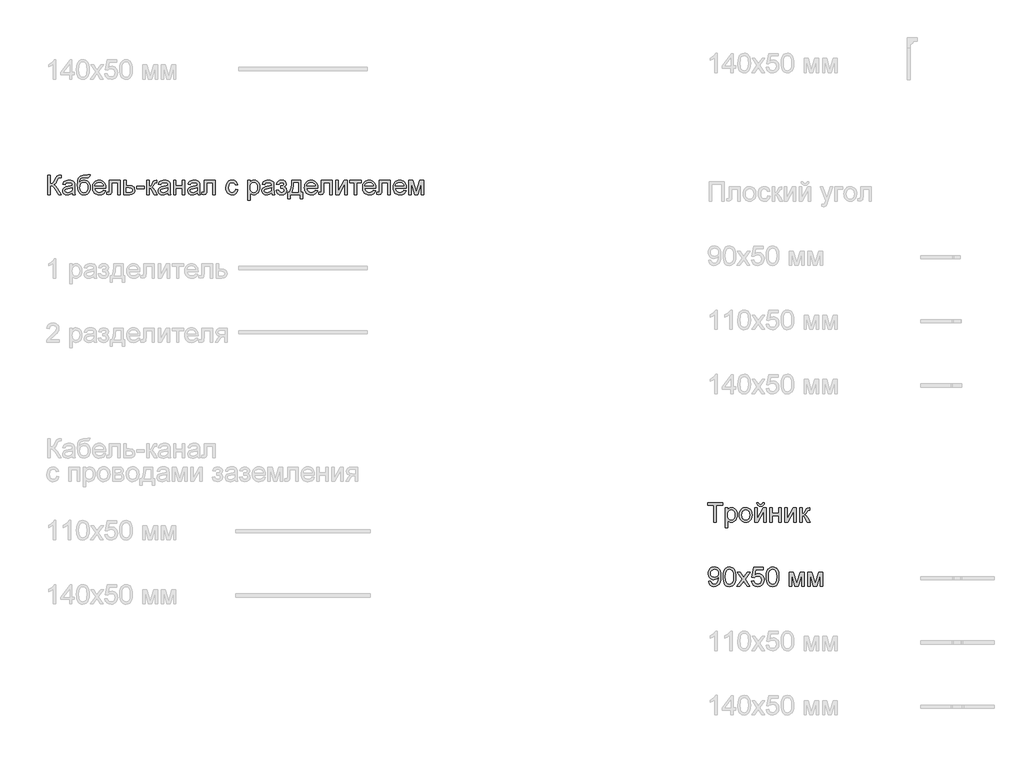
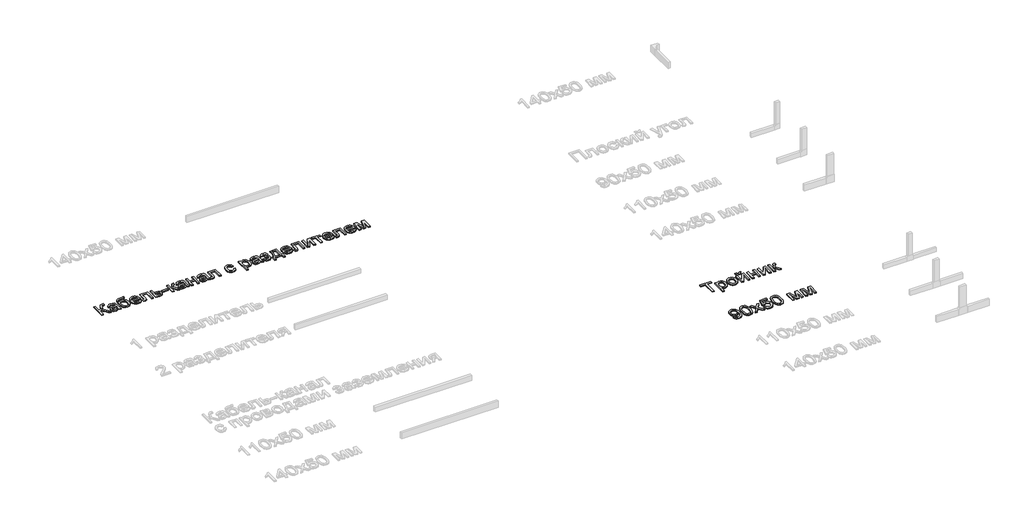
# One storey, part 83 of 168: 3 proxies.
"""IFC4 building model written with IfcOpenShell, lengths in millimetres."""

from ifc_helpers import new_model, si_unit, origin, origin_with_axes, place, context, project, spatial, polyline, outline, extrude, element, save

model = new_model("IFC4")

# Units and contexts
model_context = context("Model", 3, world=origin())
ifc_project = project(units=[si_unit("LENGTHUNIT", "METRE", prefix="MILLI")], contexts=[model_context])

# Site, building, storey
site = spatial("IfcSite", under=ifc_project)
building = spatial("IfcBuilding", under=site)
storey = spatial("IfcBuildingStorey", under=building, Name="Этаж 01", Elevation=0.0)

# Proxies
placement = place(None, origin())
element("IfcBuildingElementProxy", 1, Name="300 мм Arial 2", ObjectType="300 мм Arial 2", at=placement, inside=storey, context=model_context, shape_type="SweptSolid", body=[
    extrude(outline(polyline([(11154.1599642, -22148.4056816), (11154.1599642, -21884.7078674), (11055.2732839, -21884.7078674), (11055.2732839, -21847.0367511), (11290.7177608, -21847.0367511), (11290.7177608, -21884.7078674), (11191.8310805, -21884.7078674), (11191.8310805, -22148.4056816), (11154.1599642, -22148.4056816)])), origin_with_axes(), (0.0, 0.0, 1.0), 20.0),
    extrude(outline(polyline([(11328.3888771, -22233.1656933), (11328.3888771, -21927.0878733), (11366.0599934, -21927.0878733), (11366.0599934, -21964.0232256), (11378.347252, -21945.8038698), (11392.1060387, -21932.7900442), (11408.1456936, -21924.9817488), (11427.2755574, -21922.3789837), (11452.7513856, -21926.0210155), (11475.0266404, -21936.9471107), (11493.1632227, -21954.4950819), (11506.2230336, -21978.0027414), (11514.1141024, -22005.7594379), (11516.7444586, -22036.0545202), (11513.7738115, -22068.271786), (11504.8618702, -22097.0861432), (11490.2937432, -22121.0352611), (11470.354539, -22138.6568087), (11447.1319881, -22149.5001305), (11422.7138207, -22153.1145711), (11405.3957757, -22150.695747), (11389.9355349, -22143.4392746), (11376.7009801, -22132.4855882), (11366.0599934, -22118.975122), (11366.0599934, -22233.1656933), (11328.3888771, -22233.1656933)]), holes=[polyline([(11366.0599934, -22039.512611), (11370.1342865, -22073.2841782), (11382.3571658, -22096.9022022), (11400.3925806, -22110.8081417), (11421.9044803, -22115.4434548), (11443.7658678, -22110.6425948), (11462.2611351, -22096.2400147), (11474.8702905, -22071.7574679), (11479.0733423, -22036.7167078), (11474.9714581, -22003.1290817), (11462.6658053, -21979.1799638), (11444.6579817, -21964.832566), (11423.4495846, -21960.0501), (11402.1584142, -21965.1360686), (11383.4608118, -21980.3939744), (11370.410198, -22005.3455707), (11366.0599934, -22039.512611)])]), origin_with_axes(), (0.0, 0.0, 1.0), 20.0),
    extrude(outline(polyline([(11549.7066854, -22037.7467774), (11551.7438319, -22009.0841715), (11557.8552716, -21984.385494), (11568.0410043, -21963.6507451), (11582.3010302, -21946.8799246), (11596.657625, -21936.160763), (11612.504142, -21928.504219), (11629.840581, -21923.9102925), (11648.6669421, -21922.3789837), (11669.4499756, -21924.2436856), (11688.2418477, -21929.8377912), (11705.0425586, -21939.1613005), (11719.8521082, -21952.2142135), (11731.939331, -21968.5550719), (11740.5730615, -21987.7424172), (11745.7532999, -22009.7762495), (11747.480046, -22034.6565687), (11744.4266254, -22072.7139611), (11735.2663638, -22101.6846682), (11720.2659754, -22123.3805088), (11699.6921748, -22139.6133019), (11675.2556133, -22149.7392538), (11648.6669421, -22153.1145711), (11627.580406, -22151.256767), (11608.6137899, -22145.6833548), (11591.7670937, -22136.3943344), (11577.0403176, -22123.3897059), (11565.0818535, -22106.8901984), (11556.5400934, -22087.1165412), (11551.4150374, -22064.0687342), (11549.7066854, -22037.7467774)]), holes=[polyline([(11587.3778017, -22037.673201), (11591.7372033, -22071.7666649), (11604.8154083, -22096.0560737), (11624.497095, -22110.5966095), (11648.6669421, -22115.4434548), (11672.7264246, -22110.5690184), (11692.3713231, -22095.9457091), (11705.449528, -22071.3344036), (11709.8089297, -22036.4959786), (11705.4219369, -22003.3957961), (11692.2609585, -21979.4374812), (11672.5884688, -21964.8969453), (11648.6669421, -21960.0501), (11624.497095, -21964.8785512), (11604.8154083, -21979.3639048), (11591.7372033, -22003.5981312), (11587.3778017, -22037.673201)])]), origin_with_axes(), (0.0, 0.0, 1.0), 20.0),
    extrude(outline(polyline([(11789.8600518, -21927.0878733), (11827.5311681, -21927.0878733), (11827.5311681, -22095.8721327), (11920.0902781, -21927.0878733), (11968.7978543, -21927.0878733), (11968.7978543, -22148.4056816), (11931.126738, -22148.4056816), (11931.126738, -21980.6514918), (11839.1562392, -22148.4056816), (11789.8600518, -22148.4056816), (11789.8600518, -21927.0878733)])), origin_with_axes(), (0.0, 0.0, 1.0), 20.0),
    extrude(outline(polyline([(11912.2911798, -21847.0367511), (11940.5445171, -21847.0367511), (11934.4652671, -21871.160613), (11922.2607819, -21888.9385104), (11904.4828845, -21899.8921968), (11881.6833978, -21903.5434256), (11856.9433337, -21899.9197879), (11837.7582876, -21889.048875), (11824.6432945, -21871.2985687), (11818.1133891, -21847.0367511), (11846.3667263, -21847.0367511), (11850.3398518, -21859.4435714), (11856.9617278, -21868.2635422), (11866.2691422, -21873.5334518), (11878.2988835, -21875.2900883), (11891.8737291, -21873.5886341), (11901.6961784, -21868.4842714), (11908.3180543, -21859.7194829), (11912.2911798, -21847.0367511)])), origin_with_axes(), (0.0, 0.0, 1.0), 20.0),
    extrude(outline(polyline([(12025.3045288, -21927.0878733), (12062.9756451, -21927.0878733), (12062.9756451, -22011.847885), (12161.8623254, -22011.847885), (12161.8623254, -21927.0878733), (12199.5334417, -21927.0878733), (12199.5334417, -22148.4056816), (12161.8623254, -22148.4056816), (12161.8623254, -22049.5190013), (12062.9756451, -22049.5190013), (12062.9756451, -22148.4056816), (12025.3045288, -22148.4056816), (12025.3045288, -21927.0878733)])), origin_with_axes(), (0.0, 0.0, 1.0), 20.0),
    extrude(outline(polyline([(12256.0401161, -21927.0878733), (12293.7112324, -21927.0878733), (12293.7112324, -22095.8721327), (12386.2703424, -21927.0878733), (12434.9779186, -21927.0878733), (12434.9779186, -22148.4056816), (12397.3068023, -22148.4056816), (12397.3068023, -21980.6514918), (12305.3363035, -22148.4056816), (12256.0401161, -22148.4056816), (12256.0401161, -21927.0878733)])), origin_with_axes(), (0.0, 0.0, 1.0), 20.0),
    extrude(outline(polyline([(12491.484593, -21927.0878733), (12529.1557093, -21927.0878733), (12529.1557093, -22021.265664), (12544.4779944, -22019.5734069), (12554.3924142, -22014.4966353), (12563.1663998, -22001.2528835), (12575.0673823, -21975.0596854), (12592.2474715, -21941.0306009), (12607.4042097, -21929.9573528), (12634.9585712, -21927.0878733), (12642.1690583, -21927.0878733), (12642.1690583, -21964.9797188), (12632.0155152, -21964.7589896), (12613.6214154, -21968.7321151), (12600.6719692, -21993.5273616), (12585.4784428, -22020.345959), (12564.1780753, -22033.4793463), (12576.115846, -22038.7814455), (12587.9432522, -22048.1394438), (12611.2669707, -22079.0231373), (12651.5868373, -22148.4056816), (12608.7653731, -22148.4056816), (12569.2548468, -22080.4946653), (12549.3892191, -22051.7630814), (12540.1001987, -22046.5483542), (12529.1557093, -22044.8101117), (12529.1557093, -22148.4056816), (12491.484593, -22148.4056816), (12491.484593, -21927.0878733)])), origin_with_axes(), (0.0, 0.0, 1.0), 20.0),
])
element("IfcBuildingElementProxy", 2, Name="300 мм Arial 2", ObjectType="300 мм Arial 2", at=placement, inside=storey, context=model_context, shape_type="SweptSolid", body=[
    extrude(outline(polyline([(11069.3999525, -23073.063449), (11107.0710688, -23068.3545594), (11113.5090037, -23089.7377004), (11123.9936406, -23104.2966303), (11138.267462, -23112.6567487), (11156.0729505, -23115.4434548), (11172.0482262, -23113.6500301), (11186.5703679, -23108.2697559), (11198.6368974, -23099.8912435), (11207.2453361, -23089.1031039), (11219.5693829, -23056.3616064), (11225.0140364, -23012.6572253), (11224.7933072, -23005.2995854), (11211.7426935, -23021.2288758), (11194.6637718, -23033.8472283), (11174.7889471, -23042.0693909), (11153.3506238, -23044.8101117), (11135.455464, -23043.1362486), (11118.9996425, -23038.1146594), (11103.9831593, -23029.745344), (11090.4060144, -23018.0283025), (11079.1557231, -23003.5751386), (11071.1198008, -22986.9974562), (11066.2982474, -22968.2952553), (11064.6910629, -22947.4685358), (11066.3764223, -22925.9474391), (11071.4325005, -22906.6336343), (11079.8592975, -22889.5271216), (11091.6568132, -22874.6279008), (11105.9927147, -22862.5567728), (11122.0346689, -22853.9345385), (11139.782676, -22848.761198), (11159.2367357, -22847.0367511), (11187.3337231, -22850.9730885), (11212.9107188, -22862.7821005), (11234.3030568, -22881.8751761), (11249.8460711, -22907.6637039), (11259.3098354, -22943.3114693), (11262.4644236, -22991.9822572), (11259.3190325, -23043.5869041), (11249.8828593, -23083.4745094), (11234.2386775, -23113.447695), (11212.4692604, -23135.3090825), (11185.5127072, -23148.663199), (11154.307117, -23153.1145711), (11122.0990483, -23147.8630556), (11096.4024909, -23132.1085092), (11078.4314555, -23106.8442132), (11069.3999525, -23073.063449)]), holes=[polyline([(11224.7933072, -22946.585619), (11220.7282112, -22921.0546085), (11208.5329231, -22901.40971), (11189.6053944, -22888.8833281), (11165.3435768, -22884.7078674), (11140.1804484, -22889.2052248), (11120.020515, -22902.697297), (11106.7767632, -22923.344674), (11102.3621793, -22949.3079458), (11106.5376399, -22972.585679), (11119.0640218, -22991.0625522), (11138.7273145, -23003.1198846), (11164.3135072, -23007.1389954), (11188.3821868, -23003.1198846), (11207.7603709, -22991.0625522), (11220.5350732, -22971.9050973), (11224.7933072, -22946.585619)])]), origin_with_axes(), (0.0, 0.0, 1.0), 20.0),
    extrude(outline(polyline([(11295.4266503, -23000.1492375), (11298.1949623, -22951.9107109), (11306.4998984, -22913.4394512), (11320.258685, -22884.1468474), (11339.3885487, -22863.4442881), (11364.0274454, -22851.1386354), (11394.3133306, -22847.0367511), (11417.5266845, -22849.4647723), (11438.3120172, -22856.7488358), (11455.6944415, -22868.6038331), (11468.6990701, -22884.7446556), (11478.5215193, -22905.0333477), (11486.3574058, -22929.3319534), (11491.4893597, -22960.1880558), (11493.2000109, -23000.1492375), (11490.4592901, -23048.1118526), (11482.2371275, -23086.4911418), (11468.5611143, -23115.8113368), (11449.4588417, -23136.5966695), (11424.7647628, -23148.9850957), (11394.3133306, -23153.1145711), (11373.5647861, -23151.3211464), (11355.1706863, -23145.9408722), (11339.1310313, -23136.9737486), (11325.4458211, -23124.4197755), (11312.3124339, -23101.7260549), (11302.931443, -23073.4497251), (11297.3028485, -23039.5907859), (11295.4266503, -23000.1492375)]), holes=[polyline([(11333.0977666, -23000.0756611), (11337.5123506, -23059.3322535), (11343.0305805, -23079.6002522), (11350.7561024, -23093.6280525), (11370.4745773, -23109.9896042), (11394.3133306, -23115.4434548), (11418.1520839, -23109.9712101), (11437.8705589, -23093.5544761), (11445.5960808, -23079.5036831), (11451.1143107, -23059.240283), (11455.5288946, -23000.0756611), (11451.2614635, -22942.152641), (11445.9271745, -22921.9513209), (11438.45917, -22907.5901275), (11418.7774833, -22890.4284325), (11393.8718722, -22884.7078674), (11370.2906363, -22889.7478508), (11351.3447136, -22904.8678008), (11343.3616743, -22920.5027856), (11337.6595034, -22941.5824239), (11333.0977666, -23000.0756611)])]), origin_with_axes(), (0.0, 0.0, 1.0), 20.0),
    extrude(outline(polyline([(11512.0355691, -23148.4056816), (11592.5281496, -23037.1581662), (11516.7444586, -22927.0878733), (11562.0675204, -22927.0878733), (11598.6349907, -22980.0628806), (11615.7047153, -23005.0788562), (11630.4935715, -22984.6246173), (11672.1378134, -22927.0878733), (11717.4608752, -22927.0878733), (11637.8512114, -23037.1581662), (11714.5178192, -23148.4056816), (11669.1947574, -23148.4056816), (11623.0623552, -23081.5247348), (11614.6010693, -23069.3110526), (11557.3586309, -23148.4056816), (11512.0355691, -23148.4056816)])), origin_with_axes(), (0.0, 0.0, 1.0), 20.0),
    extrude(outline(polyline([(11738.0622669, -23068.3545594), (11775.7333832, -23063.6456699), (11782.6495647, -23086.2612155), (11794.7160942, -23102.4572204), (11811.8777893, -23112.1968962), (11834.0794677, -23115.4434548), (11861.0820061, -23110.9277033), (11881.3155158, -23097.3804488), (11893.9522624, -23076.3651899), (11898.1645112, -23049.4454249), (11894.2189768, -23024.0983554), (11882.3823736, -23004.7109743), (11862.5627311, -22992.4053215), (11834.6680789, -22988.3034373), (11816.3935407, -22989.9405121), (11801.5954875, -22994.8517368), (11780.4422728, -23011.847885), (11742.7711565, -23007.1389954), (11775.7333832, -22851.7456407), (11921.7089589, -22851.7456407), (11921.7089589, -22889.416757), (11806.1940124, -22889.416757), (11790.080781, -22972.4109351), (11816.991349, -22956.0769745), (11845.1895039, -22950.632321), (11863.5353192, -22952.3199796), (11880.3866138, -22957.3829556), (11895.7433878, -22965.8212488), (11909.6056413, -22977.6348594), (11921.0812603, -22992.1018189), (11929.278131, -23008.5001588), (11934.1962534, -23026.8298792), (11935.8356275, -23047.0909801), (11929.9311215, -23084.7620964), (11922.550489, -23101.5559095), (11912.2176034, -23116.9885592), (11896.5642245, -23132.7936894), (11878.2988835, -23144.0830681), (11857.4215803, -23150.8566954), (11833.9323149, -23153.1145711), (11796.9325832, -23147.3112326), (11781.2539124, -23140.0570595), (11767.4560383, -23129.9012172), (11755.9758208, -23117.3495434), (11747.2501197, -23102.9078758), (11738.0622669, -23068.3545594)])), origin_with_axes(), (0.0, 0.0, 1.0), 20.0),
    extrude(outline(polyline([(11968.7978543, -23000.1492375), (11971.5661663, -22951.9107109), (11979.8711023, -22913.4394512), (11993.629889, -22884.1468474), (12012.7597527, -22863.4442881), (12037.3986493, -22851.1386354), (12067.6845346, -22847.0367511), (12090.8978885, -22849.4647723), (12111.6832212, -22856.7488358), (12129.0656455, -22868.6038331), (12142.070274, -22884.7446556), (12151.8927233, -22905.0333477), (12159.7286098, -22929.3319534), (12164.8605636, -22960.1880558), (12166.5712149, -23000.1492375), (12163.830494, -23048.1118526), (12155.6083314, -23086.4911418), (12141.9323183, -23115.8113368), (12122.8300457, -23136.5966695), (12098.1359667, -23148.9850957), (12067.6845346, -23153.1145711), (12046.9359901, -23151.3211464), (12028.5418903, -23145.9408722), (12012.5022353, -23136.9737486), (11998.8170251, -23124.4197755), (11985.6836379, -23101.7260549), (11976.302647, -23073.4497251), (11970.6740525, -23039.5907859), (11968.7978543, -23000.1492375)]), holes=[polyline([(12006.4689706, -23000.0756611), (12010.8835545, -23059.3322535), (12016.4017845, -23079.6002522), (12024.1273064, -23093.6280525), (12043.8457813, -23109.9896042), (12067.6845346, -23115.4434548), (12091.5232879, -23109.9712101), (12111.2417628, -23093.5544761), (12118.9672847, -23079.5036831), (12124.4855147, -23059.240283), (12128.9000986, -23000.0756611), (12124.6326675, -22942.152641), (12119.2983785, -22921.9513209), (12111.830374, -22907.5901275), (12092.1486873, -22890.4284325), (12067.2430762, -22884.7078674), (12043.6618403, -22889.7478508), (12024.7159176, -22904.8678008), (12016.7328783, -22920.5027856), (12011.0307073, -22941.5824239), (12006.4689706, -23000.0756611)])]), origin_with_axes(), (0.0, 0.0, 1.0), 20.0),
    extrude(outline(polyline([(12326.6734592, -22927.0878733), (12391.4942668, -22927.0878733), (12441.4526417, -23104.2598421), (12495.3105658, -22927.0878733), (12557.4090466, -22927.0878733), (12557.4090466, -23148.4056816), (12519.7379303, -23148.4056816), (12519.7379303, -22970.2036431), (12465.5857006, -23148.4056816), (12416.1423604, -23148.4056816), (12364.3445755, -22961.6687808), (12364.3445755, -23148.4056816), (12326.6734592, -23148.4056816), (12326.6734592, -22927.0878733)])), origin_with_axes(), (0.0, 0.0, 1.0), 20.0),
    extrude(outline(polyline([(12613.915721, -22927.0878733), (12678.7365286, -22927.0878733), (12728.6949035, -23104.2598421), (12782.5528276, -22927.0878733), (12844.6513084, -22927.0878733), (12844.6513084, -23148.4056816), (12806.9801921, -23148.4056816), (12806.9801921, -22970.2036431), (12752.8279624, -23148.4056816), (12703.3846223, -23148.4056816), (12651.5868373, -22961.6687808), (12651.5868373, -23148.4056816), (12613.915721, -23148.4056816), (12613.915721, -22927.0878733)])), origin_with_axes(), (0.0, 0.0, 1.0), 20.0),
])
element("IfcBuildingElementProxy", 3, Name="300 мм Arial 2", ObjectType="300 мм Arial 2", at=placement, inside=storey, context=model_context, shape_type="SweptSolid", body=[
    extrude(outline(polyline([(778.8177316, -16747.0367511), (816.4888479, -16747.0367511), (816.4888479, -16878.8856582), (841.9922672, -16876.3932577), (858.6113363, -16868.9160561), (872.0482262, -16851.3220997), (888.0051077, -16818.4794346), (908.7904405, -16776.3569461), (918.8152248, -16764.9434072), (932.3348881, -16755.498037), (948.3837402, -16749.1520726), (965.9960907, -16747.0367511), (990.7177608, -16747.4782095), (990.7177608, -16785.1493258), (982.4036277, -16784.9285966), (974.0894946, -16784.7078674), (956.835829, -16786.9703417), (944.658935, -16793.7577645), (934.1742981, -16808.0131918), (922.2917097, -16832.5325268), (907.7143856, -16863.0667324), (895.620265, -16879.768575), (869.611008, -16895.3667716), (884.2021276, -16901.5747802), (898.6920797, -16912.399708), (927.3684812, -16947.9003205), (990.7177608, -17048.4056816), (947.0133798, -17048.4056816), (893.4497613, -16963.4985171), (872.7655961, -16936.2660524), (855.7418568, -16919.1687367), (838.3318413, -16910.1464307), (816.4888479, -16907.1389954), (816.4888479, -17048.4056816), (778.8177316, -17048.4056816), (778.8177316, -16747.0367511)])), origin_with_axes(), (0.0, 0.0, 1.0), 20.0),
    extrude(outline(polyline([(1160.2377842, -17020.1523443), (1142.2391575, -17035.584994), (1123.707102, -17045.6833548), (1104.2185533, -17051.256767), (1083.3504472, -17053.1145711), (1051.8689454, -17048.6448049), (1028.6463945, -17035.2355061), (1014.3265878, -17014.8732377), (1009.5533189, -16989.5445623), (1011.3559407, -16973.9279716), (1016.763806, -16959.7461207), (1025.1055303, -16947.6060149), (1035.7097288, -16938.1146594), (1062.0868678, -16925.7538244), (1094.6812126, -16920.0884417), (1133.1984575, -16914.1287533), (1160.017055, -16907.1389954), (1160.2377842, -16898.7512859), (1157.6442161, -16881.9390788), (1149.8635119, -16870.9394071), (1132.4626935, -16862.7724268), (1108.21927, -16860.0501), (1085.7784683, -16861.8619189), (1070.1066953, -16867.2973753), (1059.4197234, -16877.3497509), (1051.9333248, -16893.0123268), (1014.2622085, -16888.3034373), (1020.8013109, -16867.7020455), (1030.5593809, -16851.5152378), (1044.4469262, -16839.1360086), (1063.3744548, -16829.9573528), (1086.5234294, -16824.273576), (1113.0753124, -16822.3789837), (1138.5419435, -16824.0528468), (1158.729468, -16829.074436), (1173.9505855, -16836.625214), (1184.5179958, -16845.8866432), (1191.5261479, -16857.3369703), (1196.0694905, -16871.4544419), (1197.9089005, -16904.4166687), (1197.9089005, -16951.2848348), (1199.8218868, -17016.7310418), (1207.3266795, -17048.4056816), (1169.6555632, -17048.4056816), (1160.2377842, -17020.1523443)]), holes=[polyline([(1160.2377842, -16944.8101117), (1099.4636786, -16956.3616064), (1067.0532748, -16962.4684475), (1052.3747832, -16972.4012614), (1047.2244352, -16986.895812), (1050.0295355, -16998.0978187), (1058.4448361, -17007.2764745), (1072.2863962, -17013.4017097), (1091.3702747, -17015.4434548), (1111.6037844, -17013.1901776), (1129.4828494, -17006.4303459), (1143.9774, -16996.4699409), (1154.0573666, -16984.6149436), (1158.5271329, -16972.4012614), (1160.017055, -16955.4786896), (1160.2377842, -16944.8101117)])]), origin_with_axes(), (0.0, 0.0, 1.0), 20.0),
    extrude(outline(polyline([(1405.1000402, -16742.3278616), (1438.0622669, -16742.3278616), (1434.4938116, -16760.2345177), (1428.3501822, -16771.721633), (1419.8337141, -16778.5182529), (1409.1467421, -16782.3534227), (1363.0143399, -16784.7078674), (1324.7086272, -16786.8783712), (1300.8790709, -16793.3898825), (1286.6236436, -16804.6838598), (1277.0403176, -16821.2017613), (1271.4025261, -16843.072346), (1268.9837019, -16870.4243723), (1284.1312431, -16849.3815222), (1301.6148349, -16834.3719368), (1321.4528715, -16825.377222), (1343.663747, -16822.3789837), (1364.1869638, -16824.2850723), (1382.8615735, -16830.0033381), (1399.6875763, -16839.533781), (1414.664972, -16852.8764011), (1426.9614277, -16869.4701784), (1435.7446103, -16888.7540927), (1441.0145199, -16910.7281441), (1442.7711565, -16935.3923327), (1439.2854746, -16971.3527977), (1428.8284288, -17000.2131402), (1413.5889172, -17022.6447449), (1395.7558375, -17039.3189963), (1373.167883, -17049.6656774), (1343.663747, -17053.1145711), (1309.6622536, -17048.672396), (1284.1772283, -17035.3458707), (1265.4244436, -17015.0939669), (1251.6196718, -16989.8756561), (1243.1215977, -16951.9010372), (1240.2889063, -16893.3802088), (1242.0754333, -16853.7156319), (1247.4350141, -16821.1005938), (1256.3676488, -16795.5350944), (1268.8733373, -16777.0191337), (1285.085437, -16763.9018413), (1305.137305, -16754.5323468), (1329.0289413, -16748.91065), (1356.760346, -16747.0367511), (1398.6988934, -16746.1906225), (1405.1000402, -16742.3278616)]), holes=[polyline([(1405.1000402, -16934.2151103), (1401.01655, -16904.5730185), (1388.7660796, -16880.8354328), (1369.0843928, -16865.2464332), (1342.7072538, -16860.0501), (1315.2080746, -16865.5407388), (1304.121031, -16872.4040373), (1294.809018, -16882.0126552), (1282.1722715, -16907.6632273), (1277.9600226, -16940.6898334), (1282.6137299, -16972.704764), (1296.5748516, -16996.2032265), (1317.3601843, -17010.6333977), (1342.4865246, -17015.4434548), (1367.7416235, -17009.8792396), (1387.73601, -16993.1865941), (1400.7590326, -16967.3152928), (1405.1000402, -16934.2151103)])]), origin_with_axes(), (0.0, 0.0, 1.0), 20.0),
    extrude(outline(polyline([(1644.8119482, -16982.481228), (1681.7473005, -16987.1901176), (1668.4391693, -17015.0203905), (1647.2031812, -17035.8241173), (1618.5175826, -17048.7919577), (1582.8606202, -17053.1145711), (1559.486318, -17051.2498692), (1538.6595985, -17045.6557637), (1520.3804619, -17036.3322543), (1504.648908, -17023.2793413), (1491.9983659, -17006.860308), (1482.9622644, -16987.4384379), (1477.5406035, -16965.013731), (1475.7333832, -16939.5861874), (1477.5589976, -16913.2964203), (1483.0358408, -16890.1244531), (1492.1639128, -16870.0702859), (1504.9432136, -16853.1339185), (1520.6333807, -16839.6786346), (1538.4940516, -16830.0677174), (1558.5252262, -16824.3011672), (1580.7269046, -16822.3789837), (1602.2135124, -16824.2965686), (1621.6445796, -16830.0493233), (1639.020106, -16839.6372478), (1654.3400919, -16853.0603421), (1666.8457805, -16869.9599213), (1675.7784152, -16889.9773003), (1681.137996, -16913.1124793), (1682.9245229, -16939.3654582), (1682.7037937, -16949.5190013), (1513.4044995, -16949.5190013), (1519.9252079, -16977.7171562), (1535.072749, -16998.4473066), (1556.9341366, -17011.1944178), (1583.5963842, -17015.4434548), (1603.6459529, -17013.4752861), (1620.5317365, -17007.5707801), (1634.2537349, -16997.3620547), (1644.8119482, -16982.481228)]), holes=[polyline([(1513.4044995, -16911.847885), (1645.2534066, -16911.847885), (1640.158241, -16891.945469), (1630.1702448, -16877.7084358), (1608.2076897, -16864.464684), (1580.5797519, -16860.0501), (1555.1866971, -16863.5725701), (1534.1898323, -16874.1399805), (1519.5941141, -16890.6118968), (1513.4044995, -16911.847885)])]), origin_with_axes(), (0.0, 0.0, 1.0), 20.0),
    extrude(outline(polyline([(1739.4311974, -16827.0878733), (1908.9512207, -16827.0878733), (1908.9512207, -17048.1849524), (1871.2801044, -17048.1849524), (1871.2801044, -16864.7589896), (1777.1023137, -16864.7589896), (1777.1023137, -16970.3411222), (1774.5639279, -17019.0486984), (1769.8090531, -17030.0759612), (1760.6212003, -17039.6133019), (1746.6784727, -17046.2075866), (1727.6589735, -17048.4056816), (1697.0511915, -17046.4926952), (1697.0511915, -17010.7345653), (1713.9001869, -17010.7345653), (1730.9331233, -17008.4169087), (1737.7389402, -17001.0592688), (1739.4311974, -16968.2074066), (1739.4311974, -16827.0878733)])), origin_with_axes(), (0.0, 0.0, 1.0), 20.0),
    extrude(outline(polyline([(1965.4578952, -16827.0878733), (2003.1290115, -16827.0878733), (2003.1290115, -16907.1389954), (2046.5390869, -16907.1389954), (2084.173415, -16911.857082), (2099.3209562, -16917.7546902), (2112.0220821, -16926.0113418), (2122.0652606, -16936.3419281), (2129.2389595, -16948.4613405), (2134.9779186, -16978.0666441), (2130.0942851, -17005.0231973), (2115.4433846, -17027.7675016), (2104.2114875, -17036.7967054), (2090.0503299, -17043.2461366), (2052.9402337, -17048.4056816), (1965.4578952, -17048.4056816), (1965.4578952, -16827.0878733)]), holes=[polyline([(2003.1290115, -17010.7345653), (2038.2985302, -17010.7345653), (2065.5861772, -17008.7571995), (2083.7319567, -17002.8251024), (2093.9130909, -16992.6991504), (2097.3068023, -16978.1402205), (2094.7960077, -16965.8345678), (2087.2636238, -16954.9636548), (2071.1228013, -16947.3484975), (2042.7866906, -16944.8101117), (2003.1290115, -16944.8101117), (2003.1290115, -17010.7345653)])]), origin_with_axes(), (0.0, 0.0, 1.0), 20.0),
    extrude(outline(polyline([(2163.2312558, -16958.9367803), (2163.2312558, -16921.265664), (2280.9534943, -16921.265664), (2280.9534943, -16958.9367803), (2163.2312558, -16958.9367803)])), origin_with_axes(), (0.0, 0.0, 1.0), 20.0),
    extrude(outline(polyline([(2323.3335001, -16827.0878733), (2361.0046164, -16827.0878733), (2361.0046164, -16921.265664), (2376.3269015, -16919.5734069), (2386.2413213, -16914.4966353), (2395.0153069, -16901.2528835), (2406.9162894, -16875.0596854), (2424.0963786, -16841.0306009), (2439.2531168, -16829.9573528), (2466.8074782, -16827.0878733), (2474.0179653, -16827.0878733), (2474.0179653, -16864.9797188), (2463.8644223, -16864.7589896), (2445.4703225, -16868.7321151), (2432.5208763, -16893.5273616), (2417.3273499, -16920.345959), (2396.0269824, -16933.4793463), (2407.9647531, -16938.7814455), (2419.7921592, -16948.1394438), (2443.1158777, -16979.0231373), (2483.4357444, -17048.4056816), (2440.6142802, -17048.4056816), (2401.1037539, -16980.4946653), (2381.2381262, -16951.7630814), (2371.9491058, -16946.5483542), (2361.0046164, -16944.8101117), (2361.0046164, -17048.4056816), (2323.3335001, -17048.4056816), (2323.3335001, -16827.0878733)])), origin_with_axes(), (0.0, 0.0, 1.0), 20.0),
    extrude(outline(polyline([(2648.2468783, -17020.1523443), (2630.2482516, -17035.584994), (2611.7161961, -17045.6833548), (2592.2276474, -17051.256767), (2571.3595413, -17053.1145711), (2539.8780395, -17048.6448049), (2516.6554886, -17035.2355061), (2502.3356819, -17014.8732377), (2497.562413, -16989.5445623), (2499.3650348, -16973.9279716), (2504.7729001, -16959.7461207), (2513.1146244, -16947.6060149), (2523.7188229, -16938.1146594), (2550.0959619, -16925.7538244), (2582.6903067, -16920.0884417), (2621.2075516, -16914.1287533), (2648.0261491, -16907.1389954), (2648.2468783, -16898.7512859), (2645.6533102, -16881.9390788), (2637.872606, -16870.9394071), (2620.4717876, -16862.7724268), (2596.2283641, -16860.0501), (2573.7875624, -16861.8619189), (2558.1157894, -16867.2973753), (2547.4288175, -16877.3497509), (2539.9424189, -16893.0123268), (2502.2713026, -16888.3034373), (2508.810405, -16867.7020455), (2518.568475, -16851.5152378), (2532.4560203, -16839.1360086), (2551.3835489, -16829.9573528), (2574.5325235, -16824.273576), (2601.0844065, -16822.3789837), (2626.5510376, -16824.0528468), (2646.7385621, -16829.074436), (2661.9596796, -16836.625214), (2672.5270899, -16845.8866432), (2679.5352419, -16857.3369703), (2684.0785846, -16871.4544419), (2685.9179946, -16904.4166687), (2685.9179946, -16951.2848348), (2687.8309809, -17016.7310418), (2695.3357736, -17048.4056816), (2657.6646573, -17048.4056816), (2648.2468783, -17020.1523443)]), holes=[polyline([(2648.2468783, -16944.8101117), (2587.4727726, -16956.3616064), (2555.0623689, -16962.4684475), (2540.3838773, -16972.4012614), (2535.2335293, -16986.895812), (2538.0386295, -16998.0978187), (2546.4539302, -17007.2764745), (2560.2954903, -17013.4017097), (2579.3793688, -17015.4434548), (2599.6128785, -17013.1901776), (2617.4919435, -17006.4303459), (2631.9864941, -16996.4699409), (2642.0664607, -16984.6149436), (2646.536227, -16972.4012614), (2648.0261491, -16955.4786896), (2648.2468783, -16944.8101117)])]), origin_with_axes(), (0.0, 0.0, 1.0), 20.0),
    extrude(outline(polyline([(2737.7157795, -16827.0878733), (2775.3868958, -16827.0878733), (2775.3868958, -16911.847885), (2874.2735761, -16911.847885), (2874.2735761, -16827.0878733), (2911.9446924, -16827.0878733), (2911.9446924, -17048.4056816), (2874.2735761, -17048.4056816), (2874.2735761, -16949.5190013), (2775.3868958, -16949.5190013), (2775.3868958, -17048.4056816), (2737.7157795, -17048.4056816), (2737.7157795, -16827.0878733)])), origin_with_axes(), (0.0, 0.0, 1.0), 20.0),
    extrude(outline(polyline([(3109.718053, -17020.1523443), (3091.7194264, -17035.584994), (3073.1873709, -17045.6833548), (3053.6988222, -17051.256767), (3032.830716, -17053.1145711), (3001.3492143, -17048.6448049), (2978.1266633, -17035.2355061), (2963.8068567, -17014.8732377), (2959.0335878, -16989.5445623), (2960.8362096, -16973.9279716), (2966.2440749, -16959.7461207), (2974.5857991, -16947.6060149), (2985.1899976, -16938.1146594), (3011.5671367, -16925.7538244), (3044.1614815, -16920.0884417), (3082.6787264, -16914.1287533), (3109.4973238, -16907.1389954), (3109.718053, -16898.7512859), (3107.1244849, -16881.9390788), (3099.3437807, -16870.9394071), (3081.9429624, -16862.7724268), (3057.6995389, -16860.0501), (3035.2587372, -16861.8619189), (3019.5869642, -16867.2973753), (3008.8999922, -16877.3497509), (3001.4135936, -16893.0123268), (2963.7424773, -16888.3034373), (2970.2815798, -16867.7020455), (2980.0396497, -16851.5152378), (2993.927195, -16839.1360086), (3012.8547237, -16829.9573528), (3036.0036982, -16824.273576), (3062.5555812, -16822.3789837), (3088.0222123, -16824.0528468), (3108.2097368, -16829.074436), (3123.4308544, -16836.625214), (3133.9982647, -16845.8866432), (3141.0064167, -16857.3369703), (3145.5497593, -16871.4544419), (3147.3891693, -16904.4166687), (3147.3891693, -16951.2848348), (3149.3021557, -17016.7310418), (3156.8069484, -17048.4056816), (3119.1358321, -17048.4056816), (3109.718053, -17020.1523443)]), holes=[polyline([(3109.718053, -16944.8101117), (3048.9439474, -16956.3616064), (3016.5335436, -16962.4684475), (3001.855052, -16972.4012614), (2996.7047041, -16986.895812), (2999.5098043, -16998.0978187), (3007.9251049, -17007.2764745), (3021.766665, -17013.4017097), (3040.8505435, -17015.4434548), (3061.0840532, -17013.1901776), (3078.9631182, -17006.4303459), (3093.4576688, -16996.4699409), (3103.5376355, -16984.6149436), (3108.0074017, -16972.4012614), (3109.4973238, -16955.4786896), (3109.718053, -16944.8101117)])]), origin_with_axes(), (0.0, 0.0, 1.0), 20.0),
    extrude(outline(polyline([(3218.0225124, -16827.0878733), (3387.5425358, -16827.0878733), (3387.5425358, -17048.1849524), (3349.8714195, -17048.1849524), (3349.8714195, -16864.7589896), (3255.6936287, -16864.7589896), (3255.6936287, -16970.3411222), (3253.1552429, -17019.0486984), (3248.4003681, -17030.0759612), (3239.2125153, -17039.6133019), (3225.2697877, -17046.2075866), (3206.2502885, -17048.4056816), (3175.6425065, -17046.4926952), (3175.6425065, -17010.7345653), (3192.4915019, -17010.7345653), (3209.5244383, -17008.4169087), (3216.3302552, -17001.0592688), (3218.0225124, -16968.2074066), (3218.0225124, -16827.0878733)])), origin_with_axes(), (0.0, 0.0, 1.0), 20.0),
    extrude(outline(polyline([(3703.0381348, -16968.3545594), (3740.7092511, -16973.063449), (3730.2062202, -17006.5683017), (3710.4693511, -17031.88778), (3683.3564481, -17047.8078733), (3650.7253151, -17053.1145711), (3629.5973923, -17051.2636648), (3610.6537688, -17045.710946), (3593.8944446, -17036.4564145), (3579.3194198, -17023.5000705), (3567.5219041, -17007.0856357), (3559.0951072, -16987.456832), (3554.039029, -16964.6136594), (3552.3536696, -16938.5561178), (3555.2323462, -16905.032871), (3563.868376, -16875.9793904), (3578.3997149, -16852.5177162), (3598.9643184, -16835.7698884), (3623.5664268, -16825.7267099), (3650.2102803, -16822.3789837), (3682.0412699, -16826.9775087), (3707.489507, -16840.7730835), (3725.745651, -16863.0299442), (3736.0003616, -16893.0123268), (3698.3292453, -16897.7212163), (3691.4958372, -16881.2860882), (3680.8548505, -16869.5046673), (3666.9948963, -16862.4137419), (3650.5045859, -16860.0501), (3626.1599949, -16864.7038073), (3606.8369931, -16878.664929), (3594.2278377, -16902.6876233), (3590.0247859, -16937.5260482), (3594.1358672, -16972.8335227), (3606.4691111, -16996.9389904), (3625.442625, -17010.8173387), (3649.4745163, -17015.4434548), (3668.9814591, -17012.5555811), (3684.9751289, -17003.8919602), (3696.609397, -16989.2318626), (3703.0381348, -16968.3545594)])), origin_with_axes(), (0.0, 0.0, 1.0), 20.0),
    extrude(outline(polyline([(3891.3937164, -17133.1656933), (3891.3937164, -16827.0878733), (3929.0648327, -16827.0878733), (3929.0648327, -16864.0232256), (3941.3520913, -16845.8038698), (3955.1108779, -16832.7900442), (3971.1505329, -16824.9817488), (3990.2803967, -16822.3789837), (4015.7562248, -16826.0210155), (4038.0314796, -16836.9471107), (4056.168062, -16854.4950819), (4069.2278728, -16878.0027414), (4077.1189416, -16905.7594379), (4079.7492979, -16936.0545202), (4076.7786508, -16968.271786), (4067.8667094, -16997.0861432), (4053.2985824, -17021.0352611), (4033.3593783, -17038.6568087), (4010.1368273, -17049.5001305), (3985.7186599, -17053.1145711), (3968.400615, -17050.695747), (3952.9403741, -17043.4392746), (3939.7058194, -17032.4855882), (3929.0648327, -17018.975122), (3929.0648327, -17133.1656933), (3891.3937164, -17133.1656933)]), holes=[polyline([(3929.0648327, -16939.512611), (3933.1391258, -16973.2841782), (3945.362005, -16996.9022022), (3963.3974199, -17010.8081417), (3984.9093195, -17015.4434548), (4006.7707071, -17010.6425948), (4025.2659744, -16996.2400147), (4037.8751298, -16971.7574679), (4042.0781816, -16936.7167078), (4037.9762973, -16903.1290817), (4025.6706446, -16879.1799638), (4007.6628209, -16864.832566), (3986.4544239, -16860.0501), (3965.1632534, -16865.1360686), (3946.465651, -16880.3939744), (3933.4150373, -16905.3455707), (3929.0648327, -16939.512611)])]), origin_with_axes(), (0.0, 0.0, 1.0), 20.0),
    extrude(outline(polyline([(4263.3959899, -17020.1523443), (4245.3973633, -17035.584994), (4226.8653078, -17045.6833548), (4207.3767591, -17051.256767), (4186.5086529, -17053.1145711), (4155.0271511, -17048.6448049), (4131.8046002, -17035.2355061), (4117.4847935, -17014.8732377), (4112.7115247, -16989.5445623), (4114.5141464, -16973.9279716), (4119.9220118, -16959.7461207), (4128.263736, -16947.6060149), (4138.8679345, -16938.1146594), (4165.2450736, -16925.7538244), (4197.8394183, -16920.0884417), (4236.3566632, -16914.1287533), (4263.1752607, -16907.1389954), (4263.3959899, -16898.7512859), (4260.8024218, -16881.9390788), (4253.0217176, -16870.9394071), (4235.6208992, -16862.7724268), (4211.3774758, -16860.0501), (4188.9366741, -16861.8619189), (4173.2649011, -16867.2973753), (4162.5779291, -16877.3497509), (4155.0915305, -16893.0123268), (4117.4204142, -16888.3034373), (4123.9595167, -16867.7020455), (4133.7175866, -16851.5152378), (4147.6051319, -16839.1360086), (4166.5326605, -16829.9573528), (4189.6816351, -16824.273576), (4216.2335181, -16822.3789837), (4241.7001492, -16824.0528468), (4261.8876737, -16829.074436), (4277.1087912, -16836.625214), (4287.6762016, -16845.8866432), (4294.6843536, -16857.3369703), (4299.2276962, -16871.4544419), (4301.0671062, -16904.4166687), (4301.0671062, -16951.2848348), (4302.9800926, -17016.7310418), (4310.4848853, -17048.4056816), (4272.813769, -17048.4056816), (4263.3959899, -17020.1523443)]), holes=[polyline([(4263.3959899, -16944.8101117), (4202.6218843, -16956.3616064), (4170.2114805, -16962.4684475), (4155.5329889, -16972.4012614), (4150.382641, -16986.895812), (4153.1877412, -16998.0978187), (4161.6030418, -17007.2764745), (4175.4446019, -17013.4017097), (4194.5284804, -17015.4434548), (4214.7619901, -17013.1901776), (4232.6410551, -17006.4303459), (4247.1356057, -16996.4699409), (4257.2155724, -16984.6149436), (4261.6853386, -16972.4012614), (4263.1752607, -16955.4786896), (4263.3959899, -16944.8101117)])]), origin_with_axes(), (0.0, 0.0, 1.0), 20.0),
    extrude(outline(polyline([(4404.662676, -16949.5190013), (4404.662676, -16911.847885), (4434.3875412, -16910.376357), (4449.3971266, -16902.5404705), (4454.6946274, -16895.1920276), (4456.4604609, -16886.1697217), (4454.0968191, -16875.4551586), (4447.0058937, -16867.1502225), (4436.180966, -16861.8251307), (4422.6153174, -16860.0501), (4408.902516, -16861.8159336), (4397.4154007, -16867.1134343), (4388.1539715, -16875.9426022), (4381.1182283, -16888.3034373), (4338.7382225, -16883.5945477), (4349.9770174, -16856.8127385), (4367.0651361, -16837.6828747), (4390.0025785, -16826.2049565), (4418.7893446, -16822.3789837), (4450.2800434, -16827.041888), (4474.1187967, -16841.0306009), (4489.1283821, -16861.4940369), (4494.1315773, -16885.5811105), (4492.3519481, -16897.9419455), (4487.0130606, -16908.9784054), (4478.1149149, -16918.6904901), (4465.6575108, -16927.0781996), (4480.1980467, -16937.5444423), (4490.5631219, -16950.5490709), (4496.7711306, -16966.1288733), (4498.8404668, -16984.320638), (4493.5889513, -17012.0497434), (4477.8344049, -17034.0214956), (4452.6436852, -17048.3413022), (4419.0836502, -17053.1145711), (4386.2593792, -17048.6999872), (4361.142236, -17035.4562353), (4343.7322206, -17013.3833156), (4334.029333, -16982.481228), (4376.4093388, -16977.7723385), (4382.7553032, -16993.7016289), (4393.405487, -17005.5842173), (4407.1274854, -17012.9786454), (4422.6888938, -17015.4434548), (4437.845632, -17013.079813), (4450.206467, -17005.9888875), (4458.4286296, -16995.2191421), (4461.1693505, -16981.8190404), (4459.4678963, -16971.2056449), (4454.3635336, -16962.0269891), (4439.868983, -16951.4319876), (4412.0203159, -16949.2982721), (4404.662676, -16949.5190013)])), origin_with_axes(), (0.0, 0.0, 1.0), 20.0),
    extrude(outline(polyline([(4578.8915889, -16827.0878733), (4720.1582751, -16827.0878733), (4720.1582751, -17010.7345653), (4748.4116123, -17010.7345653), (4748.4116123, -17109.6212456), (4710.740496, -17109.6212456), (4710.740496, -17048.4056816), (4555.3471412, -17048.4056816), (4555.3471412, -17109.6212456), (4517.6760249, -17109.6212456), (4517.6760249, -17010.7345653), (4541.2204726, -17010.7345653), (4558.3361825, -16979.8048865), (4570.3199385, -16938.8872116), (4577.1717406, -16887.9815405), (4578.8915889, -16827.0878733)]), holes=[polyline([(4611.8538157, -16864.7589896), (4608.7636069, -16910.8821947), (4603.0246478, -16950.5858591), (4594.6369383, -16983.8699826), (4583.6004785, -17010.7345653), (4682.4871588, -17010.7345653), (4682.4871588, -16864.7589896), (4611.8538157, -16864.7589896)])]), origin_with_axes(), (0.0, 0.0, 1.0), 20.0),
    extrude(outline(polyline([(4945.7435145, -16982.481228), (4982.6788668, -16987.1901176), (4969.3707357, -17015.0203905), (4948.1347475, -17035.8241173), (4919.4491489, -17048.7919577), (4883.7921865, -17053.1145711), (4860.4178843, -17051.2498692), (4839.5911648, -17045.6557637), (4821.3120282, -17036.3322543), (4805.5804744, -17023.2793413), (4792.9299323, -17006.860308), (4783.8938308, -16987.4384379), (4778.4721698, -16965.013731), (4776.6649495, -16939.5861874), (4778.4905639, -16913.2964203), (4783.9674072, -16890.1244531), (4793.0954792, -16870.0702859), (4805.87478, -16853.1339185), (4821.5649471, -16839.6786346), (4839.4256179, -16830.0677174), (4859.4567926, -16824.3011672), (4881.658471, -16822.3789837), (4903.1450788, -16824.2965686), (4922.5761459, -16830.0493233), (4939.9516724, -16839.6372478), (4955.2716582, -16853.0603421), (4967.7773468, -16869.9599213), (4976.7099815, -16889.9773003), (4982.0695623, -16913.1124793), (4983.8560892, -16939.3654582), (4983.63536, -16949.5190013), (4814.3360659, -16949.5190013), (4820.8567742, -16977.7171562), (4836.0043154, -16998.4473066), (4857.8657029, -17011.1944178), (4884.5279505, -17015.4434548), (4904.5775193, -17013.4752861), (4921.4633028, -17007.5707801), (4935.1853013, -16997.3620547), (4945.7435145, -16982.481228)]), holes=[polyline([(4814.3360659, -16911.847885), (4946.1849729, -16911.847885), (4941.0898073, -16891.945469), (4931.1018111, -16877.7084358), (4909.139256, -16864.464684), (4881.5113182, -16860.0501), (4856.1182635, -16863.5725701), (4835.1213986, -16874.1399805), (4820.5256804, -16890.6118968), (4814.3360659, -16911.847885)])]), origin_with_axes(), (0.0, 0.0, 1.0), 20.0),
    extrude(outline(polyline([(5040.3627637, -16827.0878733), (5209.8827871, -16827.0878733), (5209.8827871, -17048.1849524), (5172.2116708, -17048.1849524), (5172.2116708, -16864.7589896), (5078.03388, -16864.7589896), (5078.03388, -16970.3411222), (5075.4954942, -17019.0486984), (5070.7406194, -17030.0759612), (5061.5527666, -17039.6133019), (5047.610039, -17046.2075866), (5028.5905398, -17048.4056816), (4997.9827578, -17046.4926952), (4997.9827578, -17010.7345653), (5014.8317532, -17010.7345653), (5031.8646896, -17008.4169087), (5038.6705065, -17001.0592688), (5040.3627637, -16968.2074066), (5040.3627637, -16827.0878733)])), origin_with_axes(), (0.0, 0.0, 1.0), 20.0),
    extrude(outline(polyline([(5266.3894615, -16827.0878733), (5304.0605778, -16827.0878733), (5304.0605778, -16995.8721327), (5396.6196878, -16827.0878733), (5445.327264, -16827.0878733), (5445.327264, -17048.4056816), (5407.6561477, -17048.4056816), (5407.6561477, -16880.6514918), (5315.6856489, -17048.4056816), (5266.3894615, -17048.4056816), (5266.3894615, -16827.0878733)])), origin_with_axes(), (0.0, 0.0, 1.0), 20.0),
    extrude(outline(polyline([(5482.9983803, -16827.0878733), (5661.9361827, -16827.0878733), (5661.9361827, -16864.7589896), (5591.3028397, -16864.7589896), (5591.3028397, -17048.4056816), (5553.6317234, -17048.4056816), (5553.6317234, -16864.7589896), (5482.9983803, -16864.7589896), (5482.9983803, -16827.0878733)])), origin_with_axes(), (0.0, 0.0, 1.0), 20.0),
    extrude(outline(polyline([(5849.8503059, -16982.481228), (5886.7856582, -16987.1901176), (5873.477527, -17015.0203905), (5852.2415388, -17035.8241173), (5823.5559403, -17048.7919577), (5787.8989779, -17053.1145711), (5764.5246756, -17051.2498692), (5743.6979562, -17045.6557637), (5725.4188195, -17036.3322543), (5709.6872657, -17023.2793413), (5697.0367236, -17006.860308), (5688.0006221, -16987.4384379), (5682.5789612, -16965.013731), (5680.7717409, -16939.5861874), (5682.5973553, -16913.2964203), (5688.0741985, -16890.1244531), (5697.2022705, -16870.0702859), (5709.9815713, -16853.1339185), (5725.6717384, -16839.6786346), (5743.5324093, -16830.0677174), (5763.5635839, -16824.3011672), (5785.7652623, -16822.3789837), (5807.2518701, -16824.2965686), (5826.6829372, -16830.0493233), (5844.0584637, -16839.6372478), (5859.3784496, -16853.0603421), (5871.8841381, -16869.9599213), (5880.8167728, -16889.9773003), (5886.1763536, -16913.1124793), (5887.9628806, -16939.3654582), (5887.7421514, -16949.5190013), (5718.4428572, -16949.5190013), (5724.9635656, -16977.7171562), (5740.1111067, -16998.4473066), (5761.9724943, -17011.1944178), (5788.6347419, -17015.4434548), (5808.6843106, -17013.4752861), (5825.5700942, -17007.5707801), (5839.2920926, -16997.3620547), (5849.8503059, -16982.481228)]), holes=[polyline([(5718.4428572, -16911.847885), (5850.2917643, -16911.847885), (5845.1965986, -16891.945469), (5835.2086025, -16877.7084358), (5813.2460474, -16864.464684), (5785.6181095, -16860.0501), (5760.2250548, -16863.5725701), (5739.2281899, -16874.1399805), (5724.6324718, -16890.6118968), (5718.4428572, -16911.847885)])]), origin_with_axes(), (0.0, 0.0, 1.0), 20.0),
    extrude(outline(polyline([(5944.469555, -16827.0878733), (6113.9895784, -16827.0878733), (6113.9895784, -17048.1849524), (6076.3184621, -17048.1849524), (6076.3184621, -16864.7589896), (5982.1406713, -16864.7589896), (5982.1406713, -16970.3411222), (5979.6022856, -17019.0486984), (5974.8474108, -17030.0759612), (5965.659558, -17039.6133019), (5951.7168303, -17046.2075866), (5932.6973312, -17048.4056816), (5902.0895492, -17046.4926952), (5902.0895492, -17010.7345653), (5918.9385446, -17010.7345653), (5935.9714809, -17008.4169087), (5942.7772979, -17001.0592688), (5944.469555, -16968.2074066), (5944.469555, -16827.0878733)])), origin_with_axes(), (0.0, 0.0, 1.0), 20.0),
    extrude(outline(polyline([(6325.4481492, -16982.481228), (6362.3835016, -16987.1901176), (6349.0753704, -17015.0203905), (6327.8393822, -17035.8241173), (6299.1537836, -17048.7919577), (6263.4968213, -17053.1145711), (6240.122519, -17051.2498692), (6219.2957995, -17045.6557637), (6201.0166629, -17036.3322543), (6185.2851091, -17023.2793413), (6172.634567, -17006.860308), (6163.5984655, -16987.4384379), (6158.1768046, -16965.013731), (6156.3695843, -16939.5861874), (6158.1951987, -16913.2964203), (6163.6720419, -16890.1244531), (6172.8001139, -16870.0702859), (6185.5794147, -16853.1339185), (6201.2695818, -16839.6786346), (6219.1302526, -16830.0677174), (6239.1614273, -16824.3011672), (6261.3631057, -16822.3789837), (6282.8497135, -16824.2965686), (6302.2807806, -16830.0493233), (6319.6563071, -16839.6372478), (6334.9762929, -16853.0603421), (6347.4819815, -16869.9599213), (6356.4146162, -16889.9773003), (6361.774197, -16913.1124793), (6363.5607239, -16939.3654582), (6363.3399947, -16949.5190013), (6194.0407006, -16949.5190013), (6200.5614089, -16977.7171562), (6215.7089501, -16998.4473066), (6237.5703376, -17011.1944178), (6264.2325852, -17015.4434548), (6284.282154, -17013.4752861), (6301.1679376, -17007.5707801), (6314.889936, -16997.3620547), (6325.4481492, -16982.481228)]), holes=[polyline([(6194.0407006, -16911.847885), (6325.8896076, -16911.847885), (6320.794442, -16891.945469), (6310.8064458, -16877.7084358), (6288.8438907, -16864.464684), (6261.2159529, -16860.0501), (6235.8228982, -16863.5725701), (6214.8260333, -16874.1399805), (6200.2303151, -16890.6118968), (6194.0407006, -16911.847885)])]), origin_with_axes(), (0.0, 0.0, 1.0), 20.0),
    extrude(outline(polyline([(6401.2318402, -16827.0878733), (6466.0526478, -16827.0878733), (6516.0110227, -17004.2598421), (6569.8689468, -16827.0878733), (6631.9674276, -16827.0878733), (6631.9674276, -17048.4056816), (6594.2963113, -17048.4056816), (6594.2963113, -16870.2036431), (6540.1440816, -17048.4056816), (6490.7007415, -17048.4056816), (6438.9029566, -16861.6687808), (6438.9029566, -17048.4056816), (6401.2318402, -17048.4056816), (6401.2318402, -16827.0878733)])), origin_with_axes(), (0.0, 0.0, 1.0), 20.0),
])

save(model, "model.ifc")
